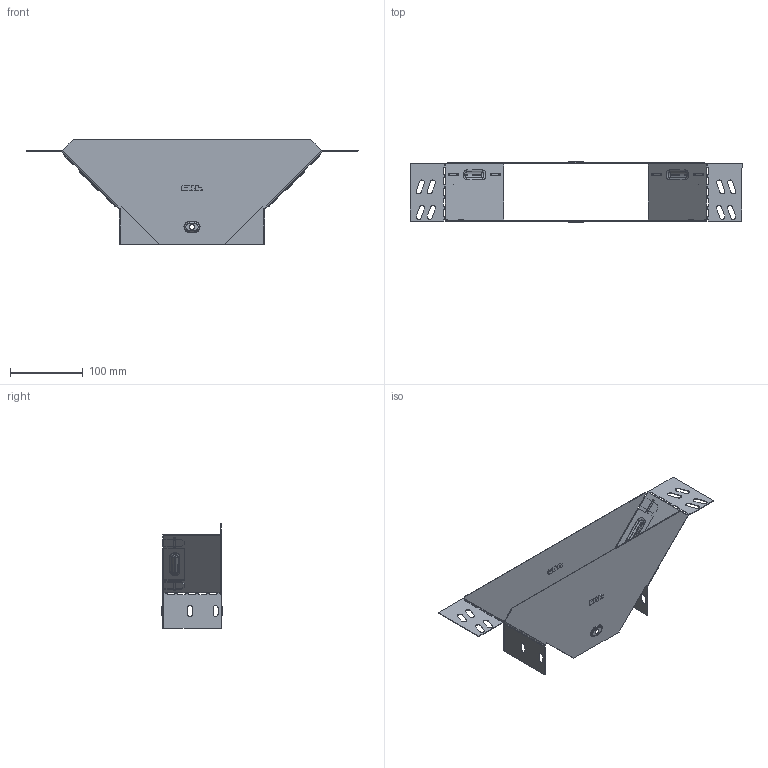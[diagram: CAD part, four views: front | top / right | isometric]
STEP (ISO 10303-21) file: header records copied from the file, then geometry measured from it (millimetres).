
FILE_DESCRIPTION (( 'STEP AP214' ), '1' );
FILE_NAME ('tn8020008_捘.STEP', '2019-06-10T08:00:46', ( '砐錪賧瘔蠈錪 Windows' ), ( '' ), 'SwSTEP 2.0', 'SolidWorks 2018', '' );
FILE_SCHEMA (( 'AUTOMOTIVE_DESIGN' ));
Length unit declared in the file: millimetre
Products named in the file (1): tn8020008_捘
Bounding box: 456.02 x 83.8 x 144 mm (x, y, z)
Volume: 81945.1 mm3; surface area: 208201.6 mm2
Topology: 2 solids, 2 shells, 650 faces, 1834 edges, 1164 vertices
Faces by surface type: plane 388, cylinder 196, torus 48, bspline 18
Entity records: 21837 total; most frequent: CARTESIAN_POINT 4607, ORIENTED_EDGE 3668, DIRECTION 3528, EDGE_CURVE 1834, VECTOR 1334, LINE 1334, VERTEX_POINT 1164, AXIS2_PLACEMENT_3D 1097
